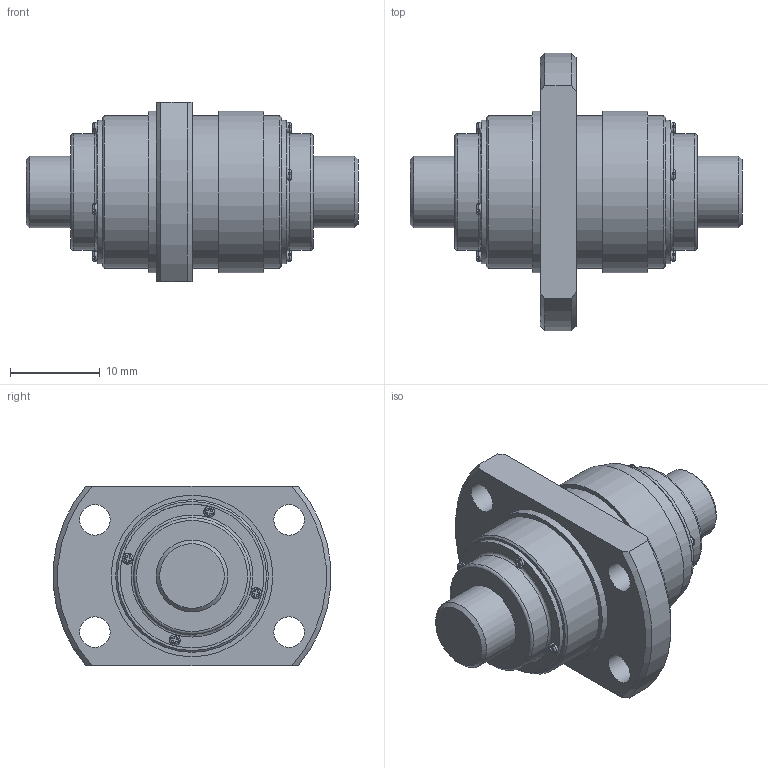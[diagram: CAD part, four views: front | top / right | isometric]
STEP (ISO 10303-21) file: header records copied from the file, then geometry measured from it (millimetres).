
FILE_DESCRIPTION(/* description */ ('STEP AP203'),/* implementation_level */ '2;1');
FILE_NAME(/* name */ 'BLK0808-3.2ZZ+37LC7T_000',/* time_stamp */ '2025-06-11T06:23:00+02:00',/* author */ ('License CC BY-ND 4.0'),/* organization */ ('CADENAS'),/* preprocessor_version */ 'ST-DEVELOPER v19.3',/* originating_system */ 'PARTsolutions',/* authorisation */ ' ');
FILE_SCHEMA (('CONFIG_CONTROL_DESIGN'));
Length unit declared in the file: millimetre
Products named in the file (3): BLK0808-3.2ZZ+37LC7T_000; BLK0808-3.20ZZ0 Shaft; BLK0808-3.2ZZ Nut
Assembly tree (2 placements, depth 2):
  BLK0808-3.2ZZ+37LC7T_000
    BLK0808-3.20ZZ0 Shaft
    BLK0808-3.2ZZ Nut
Bounding box: 37 x 30.91 x 20 mm (x, y, z)
Volume: 7436.7 mm3; surface area: 4387.9 mm2
Topology: 2 solids, 2 shells, 226 faces, 613 edges, 398 vertices
Faces by surface type: plane 125, cylinder 57, torus 36, cone 8
Full cylindrical faces by diameter (mm): 1.2 x8, 3.4 x4, 8 x2, 13 x2, 16 x2, 17 x3, 18 x2
Entity records: 7059 total; most frequent: CARTESIAN_POINT 1401, DIRECTION 1190, ORIENTED_EDGE 1140, EDGE_CURVE 570, AXIS2_PLACEMENT_3D 463, VERTEX_POINT 386, EDGE_LOOP 274, FACE_BOUND 274
